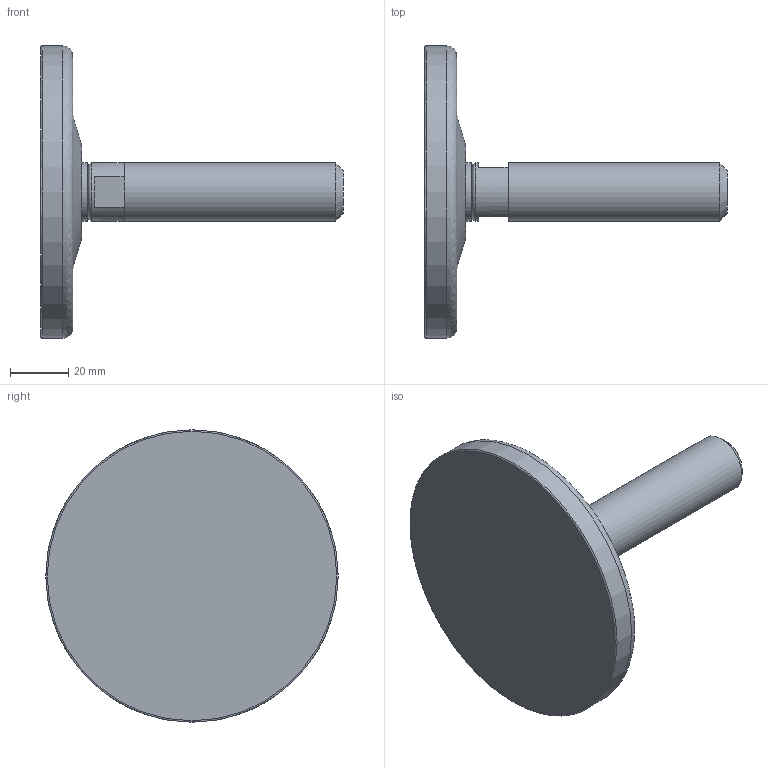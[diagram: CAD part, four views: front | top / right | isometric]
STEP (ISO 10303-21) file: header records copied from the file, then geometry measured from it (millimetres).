
FILE_DESCRIPTION(('STEP AP203'),'2;1');
FILE_NAME('15212.stp','2015-10-01T07:19:01',(''),(''),'2008.1.107','THINKDESIGN','');
FILE_SCHEMA(('CONFIG_CONTROL_DESIGN'));
Length unit declared in the file: millimetre
Bounding box: 103.5 x 100 x 100 mm (x, y, z)
Volume: 113244.6 mm3; surface area: 27644.1 mm2
Topology: 4 solids, 4 shells, 34 faces, 81 edges, 61 vertices
Faces by surface type: plane 17, bspline 10, cylinder 7
Full cylindrical faces by diameter (mm): 12.5 x2, 14.7 x1, 20 x3, 100 x1
Entity records: 1885 total; most frequent: CARTESIAN_POINT 869, DIRECTION 188, ORIENTED_EDGE 160, AXIS2_PLACEMENT_3D 83, EDGE_CURVE 80, VERTEX_POINT 59, CIRCLE 59, EDGE_LOOP 39
